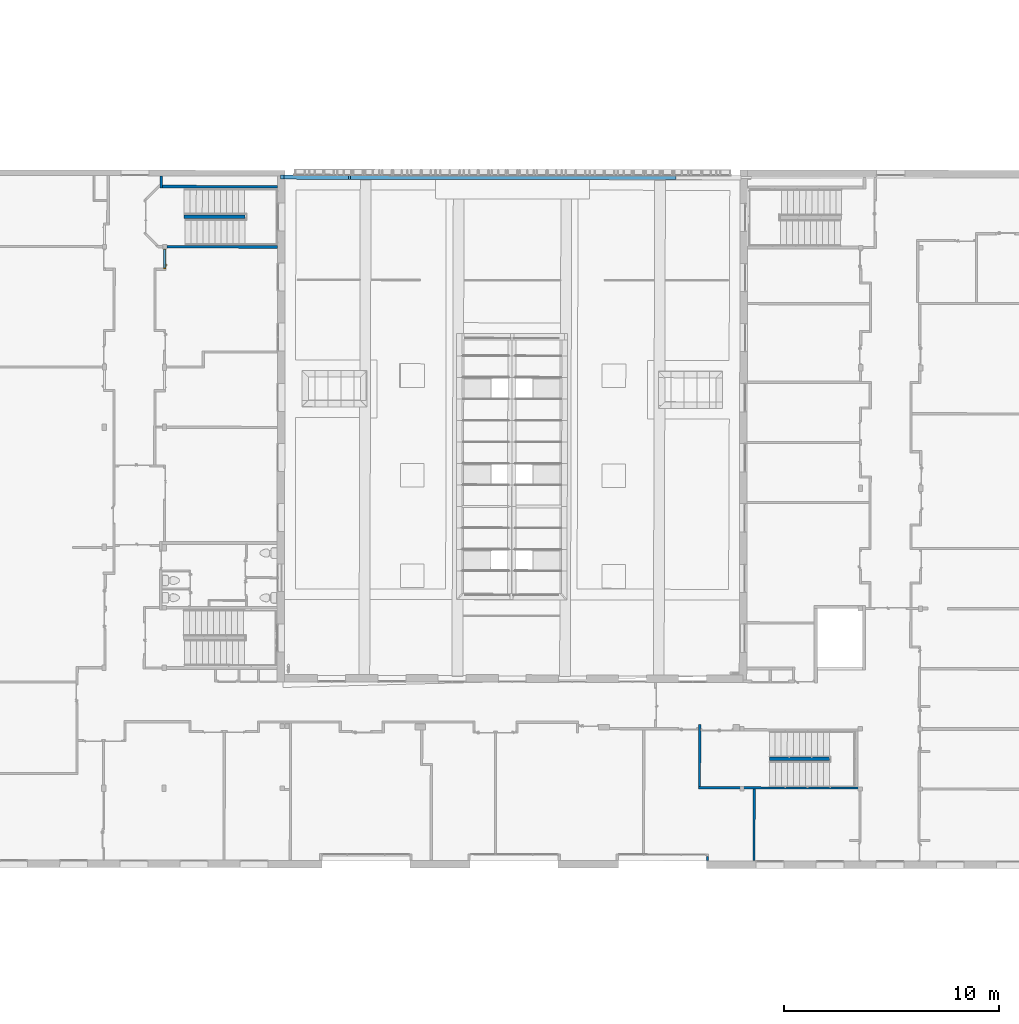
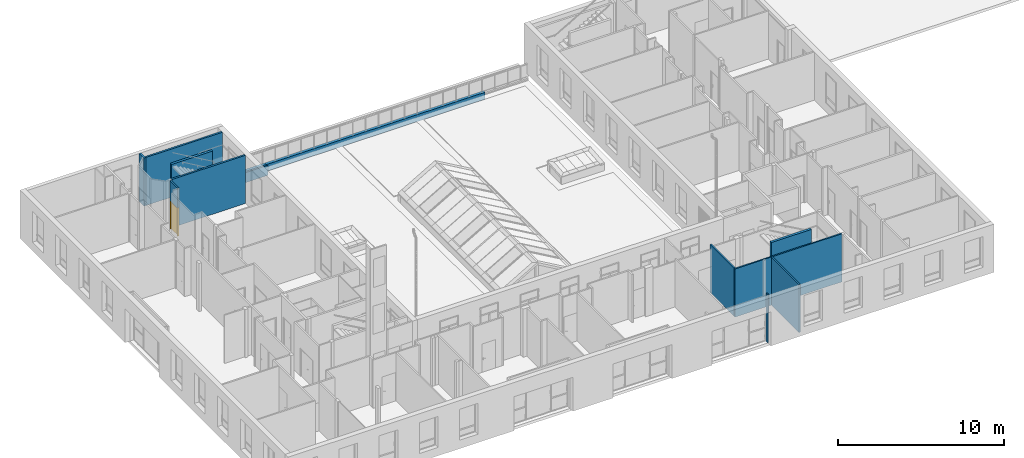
# One storey, part 69 of 101: 13 walls, 1 door, 2 openings.
"""IFC2X3 building model written with IfcOpenShell, lengths in metres."""

import ifcopenshell
import ifcopenshell.guid

model = None  # the IFC model being written
_history = None  # IfcOwnerHistory: only IFC2X3 demands one
_inside = {}  # id of a spatial element -> (the spatial element, [elements in it])
_under = {}  # id of a project, library or spatial element -> (it, [spatial elements below it])
_declared = {}  # id of a project -> (the project, [libraries it declares])
_typed = {}  # id of a type object -> (the type object, [elements of that type])
_made_of = {}  # id of a material, layer set ... -> (it, [elements and type objects made of it])


def new_model(schema):
    """Start an empty IFC model of exactly this schema.

    Asked for "IFC4X3", IfcOpenShell would pick the latest addendum, in which some entities
    have other attributes; the version numbers below select the first issue.
    IFC2X3 requires an IfcOwnerHistory on every rooted entity: one is made here for all.
    """
    global model, _history
    if schema == "IFC4X3":
        model = ifcopenshell.file(schema_version=(4, 3, 0, 0))
    else:
        model = ifcopenshell.file(schema=schema)
    _inside.clear()
    _under.clear()
    _declared.clear()
    _typed.clear()
    _made_of.clear()
    _history = None
    if model.schema == "IFC2X3":
        org = make("IfcOrganization", Name="unknown")
        user = make(
            "IfcPersonAndOrganization",
            ThePerson=make("IfcPerson", FamilyName="unknown"),
            TheOrganization=org,
        )
        app = make(
            "IfcApplication",
            ApplicationDeveloper=org,
            Version="unknown",
            ApplicationFullName="unknown",
            ApplicationIdentifier="unknown",
        )
        _history = make(
            "IfcOwnerHistory",
            OwningUser=user,
            OwningApplication=app,
            ChangeAction="ADDED",
            CreationDate=0,
        )
    return model


def make(cls, **values):
    """One entity of the class cls with the attributes given. An attribute that is None is left unset."""
    return model.create_entity(
        cls, **{name: value for name, value in values.items() if value is not None}
    )


def entity(cls, *values):
    """Any entity or typed value of the class cls, its attributes in the order of the schema. None: left unset."""
    e = model.create_entity(cls)
    for i, value in enumerate(values):
        if value is not None:
            e[i] = value
    return e


def rooted(cls, **values):
    """An entity with a GlobalId (a new one), such as an element, a storey or a relation."""
    return make(cls, GlobalId=ifcopenshell.guid.new(), OwnerHistory=_history, **values)


def si_unit(unit_type, name, prefix=None):
    """IfcSIUnit, for example si_unit("LENGTHUNIT", "METRE", prefix="MILLI")."""
    return make("IfcSIUnit", UnitType=unit_type, Prefix=prefix, Name=name)


def converted_unit(unit_type, name, factor, base, dimensions=None, offset=None):
    """IfcConversionBasedUnit, such as the inch: factor (a typed value) times the base unit."""
    return make(
        "IfcConversionBasedUnit"
        if offset is None
        else "IfcConversionBasedUnitWithOffset",
        ConversionOffset=offset,
        Dimensions=None
        if dimensions is None
        else entity("IfcDimensionalExponents", *dimensions),
        UnitType=unit_type,
        Name=name,
        ConversionFactor=make(
            "IfcMeasureWithUnit", ValueComponent=factor, UnitComponent=base
        ),
    )


def derived_unit(unit_type, elements):
    """IfcDerivedUnit: a product of units, each with its exponent."""
    return make(
        "IfcDerivedUnit",
        Elements=[
            make("IfcDerivedUnitElement", Unit=unit, Exponent=power)
            for unit, power in elements
        ],
        UnitType=unit_type,
    )


def assignment(units):
    """IfcUnitAssignment: the units of a project."""
    return None if units is None else make("IfcUnitAssignment", Units=units)


def point(xyz):
    """IfcCartesianPoint."""
    return None if xyz is None else make("IfcCartesianPoint", Coordinates=xyz)


def direction(xyz):
    """IfcDirection."""
    return None if xyz is None else make("IfcDirection", DirectionRatios=xyz)


def frame(location, z_axis=None, x_axis=None):
    """IfcAxis2Placement3D, a coordinate frame: its origin and axes. An axis left out is left unset."""
    return make(
        "IfcAxis2Placement3D",
        Location=point(location),
        Axis=direction(z_axis),
        RefDirection=direction(x_axis),
    )


def frame_2d(location, x_axis=None):
    """IfcAxis2Placement2D, a coordinate frame in the plane: its origin and x axis."""
    return make(
        "IfcAxis2Placement2D", Location=point(location), RefDirection=direction(x_axis)
    )


def origin():
    """The frame at (0, 0, 0) with its axes left unset."""
    return frame((0.0, 0.0, 0.0))


def place(relative_to, where):
    """IfcLocalPlacement: puts the frame where relative to a parent placement (None: the world)."""
    return make(
        "IfcLocalPlacement", PlacementRelTo=relative_to, RelativePlacement=where
    )


def context(
    kind, dimensions, precision=None, world=None, true_north=None, identifier=None
):
    """IfcGeometricRepresentationContext, for example the 3D "Model" context."""
    return make(
        "IfcGeometricRepresentationContext",
        ContextIdentifier=identifier,
        ContextType=kind,
        CoordinateSpaceDimension=dimensions,
        Precision=precision,
        WorldCoordinateSystem=world,
        TrueNorth=true_north,
    )


def subcontext(parent, identifier, kind, view, scale=None):
    """IfcGeometricRepresentationSubContext, for example "Body" below "Model"."""
    return make(
        "IfcGeometricRepresentationSubContext",
        ContextIdentifier=identifier,
        ContextType=kind,
        ParentContext=parent,
        TargetScale=scale,
        TargetView=view,
    )


def project(units=None, contexts=None):
    """IfcProject with its units and contexts."""
    return rooted(
        "IfcProject",
        Name="project",
        RepresentationContexts=contexts,
        UnitsInContext=assignment(units),
    )


def spatial(cls, under=None, at=None, **own):
    """A site, building, storey or space (cls), placed at a placement, below another one or the project."""
    s = rooted(cls, ObjectPlacement=at, **own)
    if under is not None:
        _under.setdefault(under.id(), (under, []))[1].append(s)
    return s


def polyline(points):
    """IfcPolyline through the points."""
    return make("IfcPolyline", Points=[point(p) for p in points])


def profile(cls, at=None, kind="AREA", **sizes):
    """A parametric profile (cls). Its sizes go by their IFC names, for example OverallWidth=200.0."""
    return make(cls, ProfileType=kind, Position=at, **sizes)


def rectangle(**sizes):
    """IfcRectangleProfileDef."""
    return profile("IfcRectangleProfileDef", **sizes)


def outline(outer, holes=None, kind="AREA"):
    """IfcArbitraryClosedProfileDef: a profile drawn as a closed curve; with holes, ...WithVoids."""
    if holes is None:
        return make("IfcArbitraryClosedProfileDef", ProfileType=kind, OuterCurve=outer)
    return make(
        "IfcArbitraryProfileDefWithVoids",
        ProfileType=kind,
        OuterCurve=outer,
        InnerCurves=holes,
    )


def extrude(swept, where, along, depth):
    """IfcExtrudedAreaSolid: the profile swept, set in the frame where, extruded along a direction by depth."""
    return make(
        "IfcExtrudedAreaSolid",
        SweptArea=swept,
        Position=where,
        ExtrudedDirection=direction(along),
        Depth=depth,
    )


def faces_of(points, faces, orient=None, outer=None):
    """IfcFace entities. A face is a list of loops; a loop is a list of indices into points, from 0.

    orient and outer hold one flag for each loop. By default every Orientation is true, the
    first loop of a face is its IfcFaceOuterBound and the others are IfcFaceBound.
    """
    made = []
    for i, loops in enumerate(faces):
        bounds = []
        for j, loop in enumerate(loops):
            is_outer = j == 0 if outer is None else outer[i][j]
            bounds.append(
                make(
                    "IfcFaceOuterBound" if is_outer else "IfcFaceBound",
                    Bound=make("IfcPolyLoop", Polygon=[points[k] for k in loop]),
                    Orientation=True if orient is None else orient[i][j],
                )
            )
        made.append(make("IfcFace", Bounds=bounds))
    return made


def faceted_brep(points, faces, orient=None, outer=None, voids=None):
    """IfcFacetedBrep: a solid bounded by flat faces; with voids (closed shells), ...WithVoids."""
    shared = [point(p) for p in points]
    hull = make("IfcClosedShell", CfsFaces=faces_of(shared, faces, orient, outer))
    if voids is None:
        return make("IfcFacetedBrep", Outer=hull)
    return make(
        "IfcFacetedBrepWithVoids",
        Outer=hull,
        Voids=[
            make(cls, CfsFaces=faces_of(shared, fs, o, b)) for cls, fs, o, b in voids
        ],
    )


def shape(context_of_items, identifier, shape_type, items):
    """IfcShapeRepresentation: the items that make up one representation, for example the "Body"."""
    return make(
        "IfcShapeRepresentation",
        ContextOfItems=context_of_items,
        RepresentationIdentifier=identifier,
        RepresentationType=shape_type,
        Items=items,
    )


def source(mapping_origin, context_of_items, identifier, shape_type, items):
    """IfcRepresentationMap: a shape defined once, which mapped items show again and again."""
    return make(
        "IfcRepresentationMap",
        MappingOrigin=mapping_origin,
        MappedRepresentation=shape(context_of_items, identifier, shape_type, items),
    )


def transform(
    local_origin,
    x_axis=None,
    y_axis=None,
    z_axis=None,
    scale=None,
    scale2=None,
    scale3=None,
    uniform=True,
):
    """IfcCartesianTransformationOperator3D, or its non-uniform kind. x_axis, y_axis, z_axis: its Axis1, 2, 3."""
    if uniform:
        return make(
            "IfcCartesianTransformationOperator3D",
            Axis1=direction(x_axis),
            Axis2=direction(y_axis),
            LocalOrigin=point(local_origin),
            Scale=scale,
            Axis3=direction(z_axis),
        )
    return make(
        "IfcCartesianTransformationOperator3DnonUniform",
        Axis1=direction(x_axis),
        Axis2=direction(y_axis),
        LocalOrigin=point(local_origin),
        Scale=scale,
        Axis3=direction(z_axis),
        Scale2=scale2,
        Scale3=scale3,
    )


def mapped(mapping_source, mapping_target):
    """IfcMappedItem: shows the shape of a source again, moved by a transform."""
    return make(
        "IfcMappedItem", MappingSource=mapping_source, MappingTarget=mapping_target
    )


def material(Name=None, Category=None):
    """IfcMaterial."""
    return make("IfcMaterial", Name=Name, Category=Category)


def material_list(materials):
    """IfcMaterialList."""
    return make("IfcMaterialList", Materials=materials)


def layer(
    of_material, thickness, ventilated=None, Name=None, Category=None, Priority=None
):
    """IfcMaterialLayer: one layer of a wall or slab, of a material (None: an air gap)."""
    return make(
        "IfcMaterialLayer",
        Material=of_material,
        LayerThickness=thickness,
        IsVentilated=ventilated,
        Name=Name,
        Category=Category,
        Priority=Priority,
    )


def layer_set(layers, Name=None):
    """IfcMaterialLayerSet."""
    return make("IfcMaterialLayerSet", MaterialLayers=layers, LayerSetName=Name)


def layer_usage(for_layer_set, set_direction, sense, offset, extent=None):
    """IfcMaterialLayerSetUsage: how a layer set lies in its element."""
    return make(
        "IfcMaterialLayerSetUsage",
        ForLayerSet=for_layer_set,
        LayerSetDirection=set_direction,
        DirectionSense=sense,
        OffsetFromReferenceLine=offset,
        ReferenceExtent=extent,
    )


def made_of(thing, what):
    """Note that an element or type object is made of a material, layer set ...; save() writes the relation."""
    if what is not None:
        _made_of.setdefault(what.id(), (what, []))[1].append(thing)
    return thing


def type_object(cls, material=None, **own):
    """A type object (cls), such as IfcWallType, which elements share."""
    return made_of(rooted(cls, **own), material)


def type_shapes(of_type, sources):
    """Give a type object the sources (RepresentationMaps) that its elements show as mapped items."""
    of_type.RepresentationMaps = sources


def element(
    cls,
    number,
    at=None,
    inside=None,
    cuts=None,
    type_object=None,
    material=None,
    context=None,
    identifier="Body",
    shape_type=None,
    held_by="IfcProductDefinitionShape",
    body=None,
    shapes=None,
    **own,
):
    """One element of the class cls, such as IfcWall. Its Tag is "e" and its number.

    at: its placement. inside: the storey or other place that contains it. cuts: it is an
    opening in that element (IfcRelVoidsElement). A single representation is given by context,
    identifier, shape_type and body (its items); several are given by shapes. held_by: the class
    of the entity that holds the representations. save() writes the other relations.
    """
    e = rooted(cls, Tag="e%d" % number, ObjectPlacement=at, **own)
    if body is not None:
        shapes = [shape(context, identifier, shape_type, body)]
    if shapes is not None:
        e.Representation = make(held_by, Representations=shapes)
    if inside is not None:
        _inside.setdefault(inside.id(), (inside, []))[1].append(e)
    if cuts is not None:
        rooted(
            "IfcRelVoidsElement", RelatingBuildingElement=cuts, RelatedOpeningElement=e
        )
    if type_object is not None:
        _typed.setdefault(type_object.id(), (type_object, []))[1].append(e)
    return made_of(e, material)


def fill(opening, filler):
    """IfcRelFillsElement: the door or window that sits in an opening."""
    return rooted(
        "IfcRelFillsElement",
        RelatingOpeningElement=opening,
        RelatedBuildingElement=filler,
    )


def aggregate(whole, parts):
    """IfcRelAggregates: a whole, such as a stair, and the parts it consists of."""
    return rooted("IfcRelAggregates", RelatingObject=whole, RelatedObjects=parts)


def save(model, path):
    """Write the relations noted so far, then the file.

    IfcRelAggregates (storeys below a building ...), IfcRelContainedInSpatialStructure (elements
    in a storey), IfcRelDefinesByType, IfcRelAssociatesMaterial and IfcRelDeclares: one each for
    every whole, place, type object, material and project.
    """
    for whole, parts in _under.values():
        aggregate(whole, parts)
    for where, things in _inside.values():
        rooted(
            "IfcRelContainedInSpatialStructure",
            RelatedElements=things,
            RelatingStructure=where,
        )
    for kind, things in _typed.values():
        rooted("IfcRelDefinesByType", RelatedObjects=things, RelatingType=kind)
    for what, things in _made_of.values():
        rooted("IfcRelAssociatesMaterial", RelatedObjects=things, RelatingMaterial=what)
    for by, libraries in _declared.values():
        rooted("IfcRelDeclares", RelatingContext=by, RelatedDefinitions=libraries)
    model.write(path)


model = new_model("IFC2X3")

# Units and contexts
model_context = context("Model", 3, precision=1e-05, world=origin(), true_north=direction((6.123233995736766e-17, 1.0)))
body_context = subcontext(model_context, "Body", "Model", "MODEL_VIEW")
ifc_project = project(units=[si_unit("LENGTHUNIT", "METRE"), si_unit("AREAUNIT", "SQUARE_METRE"), converted_unit("PLANEANGLEUNIT", "DEGREE", entity("IfcPlaneAngleMeasure", 0.017453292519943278), si_unit("PLANEANGLEUNIT", "RADIAN"), dimensions=[0, 0, 0, 0, 0, 0, 0]), derived_unit("THERMALTRANSMITTANCEUNIT", [(si_unit("MASSUNIT", "GRAM", prefix="KILO"), 1), (si_unit("THERMODYNAMICTEMPERATUREUNIT", "KELVIN"), -1), (si_unit("TIMEUNIT", "SECOND"), -3)])], contexts=[model_context])

# Site, building, storey
site_placement = place(None, frame((1253.6752467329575, 2072.143113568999, 91.49999999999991), z_axis=(0.0, 0.0, 1.0), x_axis=(0.7237211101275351, 0.6900925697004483, 0.0)))
site = spatial("IfcSite", under=ifc_project, at=site_placement, Name="Surface", CompositionType="ELEMENT")
building_placement = place(site_placement, origin())
building = spatial("IfcBuilding", under=site, at=building_placement, CompositionType="ELEMENT")
storey_placement = place(building_placement, origin())
storey = spatial("IfcBuildingStorey", under=building, at=storey_placement, Name="0- Rdc", CompositionType="ELEMENT", Elevation=-5.764692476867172e-13)

# Walls
ifc_material_1 = material(Name="OMD_Béton blanc")
ifc_layer_1 = layer(ifc_material_1, 0.12999999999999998)
ifc_layer_set_1 = layer_set([ifc_layer_1], Name="Mur de base:MUR 13")
ifc_layer_usage_1 = layer_usage(ifc_layer_set_1, "AXIS2", "NEGATIVE", 0.06499999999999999)
wall_type_1 = type_object("IfcWallType", Name="Mur de base:MUR 13", PredefinedType="STANDARD", material=ifc_layer_set_1)
wall_1_placement = place(storey_placement, frame((173.56682991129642, 15.732409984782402, 0.0), z_axis=(0.0, 0.0, 1.0), x_axis=(-0.7228702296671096, 0.6909838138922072, 0.0)))
element("IfcWallStandardCase", 1, at=wall_1_placement, inside=storey, type_object=wall_type_1, material=ifc_layer_usage_1, Name="Mur de base:MUR 13", ObjectType="Mur de base:MUR 13", context=body_context, shape_type="SweptSolid", body=[
    extrude(rectangle(XDim=5.140000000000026, YDim=0.12999999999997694, at=frame_2d((2.570000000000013, -2.983724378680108e-16), x_axis=(-1.0, 0.0))), origin(), (0.0, 0.0, 1.0), 3.5499999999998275),
])
ifc_layer_usage_2 = layer_usage(ifc_layer_set_1, "AXIS2", "NEGATIVE", 0.06499999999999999)
wall_2_placement = place(storey_placement, frame((171.54955705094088, 21.444227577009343, 0.0), z_axis=(0.0, 0.0, 1.0), x_axis=(0.6909838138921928, 0.7228702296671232, 0.0)))
element("IfcWallStandardCase", 2, at=wall_2_placement, inside=storey, type_object=wall_type_1, material=ifc_layer_usage_2, Name="Mur de base:MUR 13", ObjectType="Mur de base:MUR 13", context=body_context, shape_type="SweptSolid", body=[
    extrude(rectangle(XDim=0.5681400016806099, YDim=0.1299999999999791, at=frame_2d((0.2840700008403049, -3.039235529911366e-15), x_axis=(-1.0, 0.0))), origin(), (0.0, 0.0, 1.0), 3.549999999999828),
])
ifc_layer_usage_3 = layer_usage(ifc_layer_set_1, "AXIS2", "NEGATIVE", 0.06499999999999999)
wall_3_placement = place(storey_placement, frame((175.5015845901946, 17.756446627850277, 0.0), z_axis=(0.0, 0.0, 1.0), x_axis=(-0.7228702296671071, 0.6909838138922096, 0.0)))
element("IfcWallStandardCase", 3, at=wall_3_placement, inside=storey, type_object=wall_type_1, material=ifc_layer_usage_3, Name="Mur de base:MUR 13", ObjectType="Mur de base:MUR 13", context=body_context, shape_type="SweptSolid", body=[
    extrude(rectangle(XDim=5.340000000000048, YDim=0.1299999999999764, at=frame_2d((2.670000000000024, 7.840950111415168e-16), x_axis=(-1.0, 0.0))), origin(), (0.0, 0.0, 1.0), 3.5499999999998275),
])
ifc_layer_2 = layer(ifc_material_1, 0.1)
ifc_layer_set_2 = layer_set([ifc_layer_2], Name="Mur de base:MUR 10")
ifc_layer_usage_4 = layer_usage(ifc_layer_set_2, "AXIS2", "NEGATIVE", 0.05)
wall_type_2 = type_object("IfcWallType", Name="Mur de base:MUR 10", PredefinedType="STANDARD", material=ifc_layer_set_2)
wall_4_placement = place(storey_placement, frame((175.78559891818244, -21.18034748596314, 0.0), z_axis=(0.0, 0.0, 1.0), x_axis=(-0.7228702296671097, 0.690983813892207, 0.0)))
element("IfcWallStandardCase", 4, at=wall_4_placement, inside=storey, type_object=wall_type_2, material=ifc_layer_usage_4, Name="Mur de base:MUR 10", ObjectType="Mur de base:MUR 10", context=body_context, shape_type="SweptSolid", body=[
    extrude(rectangle(XDim=7.470000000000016, YDim=0.10000000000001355, at=frame_2d((3.735000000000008, -3.3133218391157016e-15), x_axis=(-1.0, 0.0))), origin(), (0.0, 0.0, 1.0), 3.5499999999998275),
])

# Wall, opening
ifc_layer_usage_5 = layer_usage(ifc_layer_set_2, "AXIS2", "NEGATIVE", 0.05)
wall_5_placement = place(storey_placement, frame((170.4564510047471, -16.01710407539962, 0.0), z_axis=(0.0, 0.0, 1.0), x_axis=(0.6909838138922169, 0.7228702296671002, 0.0)))
wall_5 = element("IfcWallStandardCase", 5, at=wall_5_placement, inside=storey, type_object=wall_type_2, material=ifc_layer_usage_5, Name="Mur de base:MUR 10", ObjectType="Mur de base:MUR 10", context=body_context, shape_type="SweptSolid", body=[
    extrude(rectangle(XDim=2.90000000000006, YDim=0.10000000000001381, at=frame_2d((1.45000000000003, 2.2343238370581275e-15), x_axis=(-1.0, 0.0))), origin(), (0.0, 0.0, 1.0), 3.5499999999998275),
])
opening_1_placement = place(wall_5_placement, frame((-106.204360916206, 134.28545354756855, 0.0)))
element("IfcOpeningElement", 6, at=opening_1_placement, cuts=wall_5, Name="Mur de base:MUR 10", ObjectType="Opening", context=body_context, shape_type="SweptSolid", body=[
    extrude(rectangle(XDim=2.085, YDim=0.10000000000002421, at=frame_2d((-1.0172418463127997e-14, -1.1102230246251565e-16), x_axis=(0.0, 1.0))), frame((108.85436091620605, -135.83795354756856, 1.0425), z_axis=(0.0, 1.0, 0.0), x_axis=(1.0, 0.0, 0.0)), (0.0, 0.0, 1.0), 1.5049999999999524),
])

# Wall
ifc_layer_usage_6 = layer_usage(ifc_layer_set_2, "AXIS2", "NEGATIVE", 0.05)
wall_6_placement = place(storey_placement, frame((172.2234430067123, -17.844489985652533, 0.0), z_axis=(0.0, 0.0, 1.0), x_axis=(-0.6909838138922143, -0.7228702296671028, 0.0)))
element("IfcWallStandardCase", 7, at=wall_6_placement, inside=storey, type_object=wall_type_2, material=ifc_layer_usage_6, Name="Mur de base:MUR 10", ObjectType="Mur de base:MUR 10", context=body_context, shape_type="SweptSolid", body=[
    extrude(rectangle(XDim=3.3399999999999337, YDim=0.10000000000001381, at=frame_2d((1.6699999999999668, 3.1814828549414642e-15), x_axis=(-1.0, 0.0))), origin(), (0.0, 0.0, 1.0), 3.5499999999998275),
])

# Wall, opening, door
ifc_layer_usage_7 = layer_usage(ifc_layer_set_2, "AXIS2", "NEGATIVE", 0.05)
wall_7_placement = place(storey_placement, frame((169.70989152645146, 19.28087814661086, 2.0850000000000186), z_axis=(0.0, 0.0, 1.0), x_axis=(-0.6909838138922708, -0.7228702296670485, 0.0)))
wall_7 = element("IfcWallStandardCase", 8, at=wall_7_placement, inside=storey, type_object=wall_type_2, material=ifc_layer_usage_7, Name="Mur de base:MUR 10", ObjectType="Mur de base:MUR 10", context=body_context, shape_type="SweptSolid", body=[
    extrude(rectangle(XDim=0.8999999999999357, YDim=0.10000000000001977, at=frame_2d((0.44999999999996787, 1.4536982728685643e-15), x_axis=(-1.0, 0.0))), origin(), (0.0, 0.0, 1.0), 1.464999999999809),
])
opening_2_placement = place(wall_7_placement, frame((-0.007499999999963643, -0.04999999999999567, -2.0850000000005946)))
opening_2 = element("IfcOpeningElement", 9, at=opening_2_placement, cuts=wall_7, Name="OMD_Porte 1V tunnel:80x204:1", ObjectType="Opening", context=body_context, shape_type="SweptSolid", body=[
    extrude(rectangle(XDim=2.0850000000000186, YDim=0.9349999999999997, at=frame_2d((1.0425000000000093, 0.46749999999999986), x_axis=(1.0, 0.0))), frame((0.0, 0.0, 0.0), z_axis=(0.0, 1.0, 0.0), x_axis=(0.0, 0.0, 1.0)), (0.0, 0.0, 1.0), 0.1),
])
ifc_material_2 = material(Name="Porte - Poignée")
ifc_material_3 = material(Name="OMD_Peinture mur")
ifc_material_4 = material(Name="OMD_Bois")
ifc_material_list = material_list([ifc_material_2, ifc_material_3, ifc_material_4])
door_style = type_object("IfcDoorStyle", Name="OMD_Porte 1V tunnel:80x204", ConstructionType="NOTDEFINED", OperationType="NOTDEFINED", ParameterTakesPrecedence=False, Sizeable=False, material=ifc_material_list)
shared_shape = source(origin(), body_context, "Body", "Brep", [
    faceted_brep([(0.21297470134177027, 0.03500000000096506, 1.0077804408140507), (0.20900000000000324, 0.03500000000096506, 1.0069999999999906), (0.208999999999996, 0.03500000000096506, 0.9929999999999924), (0.21297470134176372, 0.03500000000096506, 0.9922195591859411), (0.21702529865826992, 0.03500000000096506, 0.9922195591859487), (0.22100000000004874, 0.03500000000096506, 0.9930000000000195), (0.22100000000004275, 0.03500000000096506, 1.0069999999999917), (0.2170252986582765, 0.03500000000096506, 1.007780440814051), (0.22100000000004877, 0.05748520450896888, 0.9930000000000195), (0.22100000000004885, 0.057485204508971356, 1.0069999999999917), (0.21702529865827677, 0.059131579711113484, 1.007780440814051), (0.23083890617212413, 0.07294518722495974, 1.007780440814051), (0.2291610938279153, 0.07699578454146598, 1.0077804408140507), (0.21297470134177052, 0.060809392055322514, 1.0077804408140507), (0.3206847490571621, 0.0664673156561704, 1.0077804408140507), (0.32354895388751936, 0.06933152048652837, 1.0077804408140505), (0.31588468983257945, 0.07699578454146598, 1.0077804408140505), (0.31420687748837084, 0.07294518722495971, 1.0077804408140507), (0.20900000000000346, 0.06245576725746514, 1.0069999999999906), (0.20900000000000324, 0.06245576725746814, 0.9929999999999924), (0.21297470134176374, 0.06080939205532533, 0.9922195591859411), (0.22916109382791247, 0.07699578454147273, 0.9922195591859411), (0.23083890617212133, 0.07294518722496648, 0.9922195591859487), (0.21702529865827, 0.05913157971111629, 0.9922195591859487), (0.32354895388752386, 0.06933152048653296, 0.9922195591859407), (0.3206847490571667, 0.06646731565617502, 0.9922195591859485), (0.3142068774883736, 0.07294518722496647, 0.9922195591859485), (0.3158846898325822, 0.07699578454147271, 0.9922195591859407), (0.23248528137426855, 0.0689704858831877, 0.9930000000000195), (0.23248528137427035, 0.06897048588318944, 1.0069999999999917), (0.22751471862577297, 0.0809704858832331, 1.0069999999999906), (0.22751471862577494, 0.08097048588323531, 0.9929999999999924), (0.2725228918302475, 0.06897048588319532, 0.9930000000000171), (0.3125605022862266, 0.06897048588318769, 0.9930000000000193), (0.31256050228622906, 0.06897048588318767, 1.0069999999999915), (0.2725228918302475, 0.0689704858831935, 1.0069999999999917), (0.2725228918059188, 0.07512492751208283, 1.0078781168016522), (0.31753106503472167, 0.08097048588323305, 1.0069999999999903), (0.2776005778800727, 0.08097048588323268, 1.0069999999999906), (0.31753106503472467, 0.08097048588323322, 0.9929999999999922), (0.2674452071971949, 0.08097048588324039, 0.9929999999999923), (0.2725228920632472, 0.07512492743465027, 0.9921218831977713), (0.317874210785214, 0.06365677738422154, 0.9930000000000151), (0.32635949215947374, 0.07214205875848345, 0.99299999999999), (0.3263594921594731, 0.07214205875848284, 1.0069999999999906), (0.317874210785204, 0.06365677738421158, 1.0069999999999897)], [[[0, 1, 2, 3, 4, 5, 6, 7]], [[6, 5, 8, 9]], [[9, 10, 7, 6]], [[10, 11, 12, 13, 0, 7]], [[14, 15, 16, 17]], [[13, 18, 1, 0]], [[2, 1, 18, 19]], [[19, 20, 3, 2]], [[20, 21, 22, 23, 4, 3]], [[24, 25, 26, 27]], [[23, 8, 5, 4]], [[9, 8, 28, 29]], [[29, 11, 10, 9]], [[12, 30, 18, 13]], [[19, 18, 30, 31]], [[31, 21, 20, 19]], [[22, 28, 8, 23]], [[29, 28, 32, 33, 34, 35]], [[11, 35, 36]], [[16, 37, 38]], [[30, 12, 38]], [[38, 12, 36]], [[36, 35, 17]], [[17, 16, 36]], [[35, 11, 29]], [[34, 17, 35]], [[11, 36, 12]], [[38, 36, 16]], [[31, 30, 38, 37, 39, 40]], [[40, 41, 21]], [[41, 40, 27]], [[21, 31, 40]], [[39, 27, 40]], [[41, 32, 22]], [[22, 21, 41]], [[26, 32, 41]], [[28, 22, 32]], [[32, 26, 33]], [[26, 41, 27]], [[42, 25, 24, 43, 44, 15, 14, 45]], [[34, 33, 42, 45]], [[45, 14, 17, 34]], [[15, 44, 37, 16]], [[39, 37, 44, 43]], [[43, 24, 27, 39]], [[25, 42, 33, 26]]]),
    faceted_brep([(0.21297470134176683, -0.004999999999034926, 1.0077804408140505), (0.2170252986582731, -0.004999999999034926, 1.007780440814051), (0.2210000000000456, -0.004999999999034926, 1.006999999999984), (0.22100000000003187, -0.004999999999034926, 0.9930000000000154), (0.21702529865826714, -0.004999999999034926, 0.9922195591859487), (0.21297470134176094, -0.004999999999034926, 0.992219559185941), (0.20900000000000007, -0.004999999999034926, 0.992999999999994), (0.20900000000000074, -0.004999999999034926, 1.0069999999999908), (0.20900000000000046, -0.03265095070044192, 1.0069999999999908), (0.21297470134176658, -0.03100457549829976, 1.0077804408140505), (0.22902358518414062, -0.04705345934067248, 1.0077804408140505), (0.2307013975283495, -0.04300286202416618, 1.007780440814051), (0.21702529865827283, -0.02932676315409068, 1.007780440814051), (0.3235218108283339, -0.039389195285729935, 1.0077804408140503), (0.3206576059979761, -0.03652499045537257, 1.0077804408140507), (0.3141797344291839, -0.04300286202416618, 1.0077804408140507), (0.31585754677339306, -0.04705345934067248, 1.0077804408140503), (0.22100000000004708, -0.027680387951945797, 1.0069999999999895), (0.22100000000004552, -0.02768038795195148, 0.9930000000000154), (0.21702529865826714, -0.029326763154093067, 0.9922195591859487), (0.23070139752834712, -0.04300286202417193, 0.9922195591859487), (0.2290235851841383, -0.0470534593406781, 0.992219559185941), (0.21297470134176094, -0.031004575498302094, 0.992219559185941), (0.32065760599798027, -0.036524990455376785, 0.9922195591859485), (0.3235218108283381, -0.03938919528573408, 0.9922195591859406), (0.31585754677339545, -0.047053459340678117, 0.9922195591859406), (0.3141797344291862, -0.04300286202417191, 0.9922195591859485), (0.20899999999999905, -0.032650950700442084, 0.9929999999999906), (0.22737720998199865, -0.051028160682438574, 1.0069999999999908), (0.23234777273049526, -0.03902816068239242, 1.0069999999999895), (0.23234777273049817, -0.03902816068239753, 0.9930000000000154), (0.22737720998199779, -0.051028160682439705, 0.9929999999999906), (0.2673076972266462, -0.05102816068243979, 1.0069999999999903), (0.272440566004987, -0.0451828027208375, 1.0078781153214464), (0.3175039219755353, -0.05102816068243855, 1.0069999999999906), (0.27244056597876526, -0.039028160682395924, 1.0069999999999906), (0.3125333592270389, -0.03902816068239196, 1.0069999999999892), (0.31253335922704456, -0.03902816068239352, 0.9930000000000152), (0.27244056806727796, -0.03902816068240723, 0.9930000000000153), (0.27244056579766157, -0.04518280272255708, 0.9921218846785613), (0.3175039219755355, -0.051028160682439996, 0.9929999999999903), (0.27757344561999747, -0.051028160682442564, 0.9929999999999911), (0.3178470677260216, -0.03371445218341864, 1.0069999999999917), (0.3263323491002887, -0.04219973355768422, 1.0069999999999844), (0.3263323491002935, -0.04219973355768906, 0.9929999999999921), (0.31784706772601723, -0.033714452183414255, 0.9930000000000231)], [[[0, 1, 2, 3, 4, 5, 6, 7]], [[8, 9, 0, 7]], [[9, 10, 11, 12, 1, 0]], [[13, 14, 15, 16]], [[12, 17, 2, 1]], [[3, 2, 17, 18]], [[18, 19, 4, 3]], [[19, 20, 21, 22, 5, 4]], [[23, 24, 25, 26]], [[22, 27, 6, 5]], [[7, 6, 27, 8]], [[28, 10, 9, 8]], [[11, 29, 17, 12]], [[18, 17, 29, 30]], [[30, 20, 19, 18]], [[21, 31, 27, 22]], [[8, 27, 31, 28]], [[32, 33, 10]], [[33, 32, 16]], [[10, 28, 32]], [[34, 16, 32]], [[33, 35, 11]], [[11, 10, 33]], [[15, 35, 33]], [[29, 11, 35]], [[35, 15, 36]], [[15, 33, 16]], [[30, 29, 35, 36, 37, 38]], [[20, 38, 39]], [[25, 40, 41]], [[31, 21, 41]], [[41, 21, 39]], [[39, 38, 26]], [[26, 25, 39]], [[38, 20, 30]], [[37, 26, 38]], [[20, 39, 21]], [[41, 39, 25]], [[28, 31, 41, 40, 34, 32]], [[42, 14, 13, 43, 44, 24, 23, 45]], [[43, 13, 16, 34]], [[14, 42, 36, 15]], [[37, 36, 42, 45]], [[45, 23, 26, 37]], [[24, 44, 40, 25]], [[34, 40, 44, 43]]]),
    faceted_brep([(0.22535276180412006, 0.030000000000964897, 0.8660039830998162), (0.2350000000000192, 0.030000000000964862, 0.8700000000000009), (0.2350000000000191, 0.030000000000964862, 1.0800000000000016), (0.2253527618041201, 0.030000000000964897, 1.0839960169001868), (0.21500000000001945, 0.030000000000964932, 1.0853589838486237), (0.20464723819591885, 0.03000000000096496, 1.0839960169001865), (0.19500000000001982, 0.030000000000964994, 1.0800000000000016), (0.19500000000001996, 0.030000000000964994, 0.8700000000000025), (0.20464723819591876, 0.03000000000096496, 0.866003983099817), (0.21500000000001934, 0.030000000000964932, 0.8646410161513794), (0.22535276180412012, 0.0350000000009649, 1.0839960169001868), (0.2350000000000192, 0.03500000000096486, 1.0800000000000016), (0.23500000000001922, 0.03500000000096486, 0.8700000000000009), (0.22535276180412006, 0.0350000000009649, 0.8660039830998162), (0.21500000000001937, 0.03500000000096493, 0.8646410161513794), (0.20464723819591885, 0.03500000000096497, 0.866003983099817), (0.19500000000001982, 0.035000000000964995, 0.8700000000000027), (0.19500000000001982, 0.035000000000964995, 1.0800000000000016), (0.20464723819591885, 0.03500000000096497, 1.0839960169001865), (0.21500000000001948, 0.03500000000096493, 1.0853589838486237)], [[[0, 1, 2, 3, 4, 5, 6, 7, 8, 9]], [[10, 11, 12, 13, 14, 15, 16, 17, 18, 19]], [[11, 10, 3, 2]], [[3, 10, 19, 4]], [[19, 18, 5, 4]], [[18, 17, 6, 5]], [[7, 6, 17, 16]], [[16, 15, 8, 7]], [[8, 15, 14, 9]], [[14, 13, 0, 9]], [[13, 12, 1, 0]], [[2, 1, 12, 11]]]),
    faceted_brep([(0.22535276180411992, -0.004999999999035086, 0.8660039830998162), (0.2350000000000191, -0.004999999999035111, 0.8700000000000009), (0.23500000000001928, -0.004999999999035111, 1.0800000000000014), (0.22535276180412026, -0.004999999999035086, 1.0839960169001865), (0.2150000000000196, -0.004999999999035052, 1.0853589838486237), (0.20464723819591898, -0.0049999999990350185, 1.0839960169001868), (0.19500000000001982, -0.004999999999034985, 1.0800000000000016), (0.19500000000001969, -0.004999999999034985, 0.8700000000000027), (0.20464723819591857, -0.0049999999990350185, 0.8660039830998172), (0.21500000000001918, -0.004999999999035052, 0.8646410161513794), (0.22535276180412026, 0.0, 1.0839960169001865), (0.2350000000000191, 0.0, 1.0800000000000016), (0.2350000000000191, 0.0, 0.8700000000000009), (0.22535276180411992, 0.0, 0.8660039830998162), (0.21500000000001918, 0.0, 0.8646410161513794), (0.20464723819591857, 0.0, 0.8660039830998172), (0.19500000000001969, 0.0, 0.8700000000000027), (0.19500000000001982, 0.0, 1.0800000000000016), (0.20464723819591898, 0.0, 1.0839960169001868), (0.2150000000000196, 0.0, 1.0853589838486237)], [[[0, 1, 2, 3, 4, 5, 6, 7, 8, 9]], [[10, 11, 12, 13, 14, 15, 16, 17, 18, 19]], [[16, 15, 8, 7]], [[8, 15, 14, 9]], [[14, 13, 0, 9]], [[13, 12, 1, 0]], [[2, 1, 12, 11]], [[11, 10, 3, 2]], [[3, 10, 19, 4]], [[19, 18, 5, 4]], [[18, 17, 6, 5]], [[7, 6, 17, 16]]]),
    faceted_brep([(0.14500000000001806, 0.030000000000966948, 0.0), (0.9900000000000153, 0.030000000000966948, 0.0), (0.9900000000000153, 0.0, 0.0), (0.14500000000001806, 0.0, 0.0), (0.14500000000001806, 0.030000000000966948, 2.04), (0.14500000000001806, 0.0, 2.04), (0.9900000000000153, 0.0, 2.04), (0.9900000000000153, 0.030000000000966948, 2.04)], [[[0, 1, 2, 3]], [[4, 0, 3, 5]], [[5, 3, 2, 6]], [[6, 2, 1, 7]], [[7, 1, 0, 4]], [[4, 5, 6, 7]]]),
    faceted_brep([(0.10000000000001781, 0.0, 0.0), (0.10000000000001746, 0.10000000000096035, 0.0), (0.16000000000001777, 0.10000000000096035, 0.0), (0.16000000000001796, 0.03000000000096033, 0.0), (0.145000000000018, 0.03000000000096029, 0.0), (0.14500000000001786, 0.0, 0.0), (0.145000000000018, 0.0, 2.04), (0.9900000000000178, 0.0, 2.0400000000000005), (0.9900000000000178, 0.0, 0.0), (1.0350000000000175, 0.0, 0.0), (1.0350000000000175, 0.0, 2.085), (0.10000000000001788, 0.0, 2.085), (0.14500000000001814, 0.030000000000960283, 2.04), (0.16000000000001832, 0.03000000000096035, 2.0249999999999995), (0.9750000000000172, 0.03000000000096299, 2.0249999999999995), (0.9750000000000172, 0.03000000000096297, 0.0), (0.9900000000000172, 0.03000000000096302, 0.0), (0.9900000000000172, 0.03000000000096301, 2.0399999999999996), (0.16000000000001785, 0.10000000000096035, 2.0249999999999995), (0.1000000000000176, 0.10000000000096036, 2.085), (1.0350000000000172, 0.10000000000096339, 2.085), (1.0350000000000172, 0.10000000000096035, 0.0), (0.9750000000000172, 0.10000000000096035, 0.0), (0.9750000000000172, 0.10000000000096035, 2.025)], [[[0, 1, 2, 3, 4, 5]], [[5, 6, 7, 8, 9, 10, 11, 0]], [[4, 12, 6, 5]], [[3, 13, 14, 15, 16, 17, 12, 4]], [[2, 18, 13, 3]], [[1, 19, 20, 21, 22, 23, 18, 2]], [[0, 11, 19, 1]], [[10, 9, 21, 20]], [[9, 8, 16, 15, 22, 21]], [[17, 16, 8, 7]], [[23, 22, 15, 14]], [[12, 17, 7, 6]], [[18, 23, 14, 13]], [[11, 10, 20, 19]]]),
])
type_shapes(door_style, [shared_shape])
door_placement = place(opening_2_placement, frame((1.0350000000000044, 0.10000000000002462, 0.0), z_axis=(0.0, 0.0, 1.0), x_axis=(-1.0, 0.0, 0.0)))
door = element("IfcDoor", 10, at=door_placement, inside=storey, type_object=door_style, material=ifc_material_list, Name="OMD_Porte 1V tunnel:80x204", ObjectType="OMD_Porte 1V tunnel:80x204", OverallHeight=2.0850000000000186, OverallWidth=0.9349999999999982, context=body_context, shape_type="MappedRepresentation", body=[
    mapped(shared_shape, transform((0.0, 0.0, 0.0), scale=1.0)),
])
fill(opening_2, door)

# Walls
ifc_layer_usage_8 = layer_usage(ifc_layer_set_2, "AXIS2", "NEGATIVE", 0.05)
wall_8_placement = place(storey_placement, frame((168.48512543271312, -18.614867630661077, 0.0), z_axis=(0.0, 0.0, 1.0), x_axis=(-0.6909838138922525, -0.7228702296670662, 0.0)))
element("IfcWallStandardCase", 11, at=wall_8_placement, inside=storey, type_object=wall_type_2, material=ifc_layer_usage_8, Name="Mur de base:MUR 10", ObjectType="Mur de base:MUR 10", context=body_context, shape_type="SweptSolid", body=[
    extrude(rectangle(XDim=0.20000000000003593, YDim=0.1000000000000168, at=frame_2d((0.10000000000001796, 4.475586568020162e-16), x_axis=(-1.0, 0.0))), origin(), (0.0, 0.0, 1.0), 3.5499999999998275),
])
ifc_layer_3 = layer(ifc_material_1, 0.17)
ifc_layer_set_3 = layer_set([ifc_layer_3], Name="Mur de base:MUR 17")
ifc_layer_usage_9 = layer_usage(ifc_layer_set_3, "AXIS2", "NEGATIVE", 0.085)
wall_type_3 = type_object("IfcWallType", Name="Mur de base:MUR 17", PredefinedType="STANDARD", material=ifc_layer_set_3)
wall_9_placement = place(storey_placement, frame((175.72086614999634, -19.25091501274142, 0.0), z_axis=(0.0, 0.0, 1.0), x_axis=(-0.7228702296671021, 0.6909838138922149, 0.0)))
element("IfcWallStandardCase", 12, at=wall_9_placement, inside=storey, type_object=wall_type_3, material=ifc_layer_usage_9, Name="Mur de base:MUR 17", ObjectType="Mur de base:MUR 17", context=body_context, shape_type="SweptSolid", body=[
    extrude(rectangle(XDim=2.800000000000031, YDim=0.17000000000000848, at=frame_2d((1.4000000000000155, -1.519617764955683e-15), x_axis=(-1.0, 0.0))), origin(), (0.0, 0.0, 1.0), 3.5499999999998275),
])
ifc_layer_usage_10 = layer_usage(ifc_layer_set_3, "AXIS2", "NEGATIVE", 0.085)
wall_10_placement = place(storey_placement, frame((171.38972175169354, 19.750207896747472, 0.0), z_axis=(0.0, 0.0, 1.0), x_axis=(0.7228702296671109, -0.6909838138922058, 0.0)))
element("IfcWallStandardCase", 13, at=wall_10_placement, inside=storey, type_object=wall_type_3, material=ifc_layer_usage_10, Name="Mur de base:MUR 17", ObjectType="Mur de base:MUR 17", context=body_context, shape_type="SweptSolid", body=[
    extrude(rectangle(XDim=2.8500000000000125, YDim=0.17000000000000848, at=frame_2d((1.4250000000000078, -4.0592529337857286e-15), x_axis=(-1.0, 0.0))), origin(), (0.0, 0.0, 1.0), 3.5499999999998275),
])
ifc_material_5 = material(Name="Béton - Béton coulé sur place")
ifc_layer_4 = layer(ifc_material_5, 0.2)
ifc_layer_set_4 = layer_set([ifc_layer_4], Name="Mur de base:MUR 20")
ifc_layer_usage_11 = layer_usage(ifc_layer_set_4, "AXIS2", "NEGATIVE", 0.1)
wall_type_4 = type_object("IfcWallType", Name="Mur de base:MUR 20", PredefinedType="STANDARD", material=ifc_layer_set_4)
wall_11_placement = place(storey_placement, frame((175.92164086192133, 17.97744159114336, -1.0718824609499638), z_axis=(0.0, 0.0, 1.0), x_axis=(0.7228702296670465, -0.690983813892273, 0.0)))
element("IfcWallStandardCase", 14, at=wall_11_placement, inside=storey, type_object=wall_type_4, material=ifc_layer_usage_11, Name="Mur de base:MUR 20", ObjectType="Mur de base:MUR 20", context=body_context, shape_type="SweptSolid", body=[
    extrude(outline(polyline([(-0.1031707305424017, -1.6243658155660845), (0.09682965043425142, -1.6243658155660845), (0.10317034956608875, 1.6241706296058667), (-0.0968292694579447, 1.6245610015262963), (-0.1031707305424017, -1.6243658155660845)])), frame((1.6243689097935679, 0.0, 0.0), z_axis=(0.0, 0.0, 1.0), x_axis=(-0.001951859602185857, 0.9999980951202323, 0.0)), (0.0, 0.0, 1.0), 0.7369018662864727),
])
ifc_layer_usage_12 = layer_usage(ifc_layer_set_4, "AXIS2", "NEGATIVE", 0.1)
wall_12_placement = place(storey_placement, frame((178.19776955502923, 15.80171485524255, -0.7539702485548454), z_axis=(0.0, 0.0, 1.0), x_axis=(0.7228702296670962, -0.6909838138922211, 0.0)))
element("IfcWallStandardCase", 15, at=wall_12_placement, inside=storey, type_object=wall_type_4, material=ifc_layer_usage_12, Name="Mur de base:MUR 20", ObjectType="Mur de base:MUR 20", context=body_context, shape_type="SweptSolid", body=[
    extrude(rectangle(XDim=0.19999999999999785, YDim=15.253894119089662, at=frame_2d((-8.118505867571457e-16, -4.440892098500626e-16), x_axis=(1.0, 0.0))), frame((7.626947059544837, 0.0, 0.0), z_axis=(0.0, 0.0, 1.0), x_axis=(0.0, 1.0, 0.0)), (0.0, 0.0, 1.0), 0.5162360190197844),
])
ifc_layer_usage_13 = layer_usage(ifc_layer_set_4, "AXIS2", "NEGATIVE", 0.1)
wall_13_placement = place(storey_placement, frame((178.1977695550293, 15.801714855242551, -0.334980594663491), z_axis=(0.0, 0.0, 1.0), x_axis=(-0.7228702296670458, 0.6909838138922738, 0.0)))
element("IfcWallStandardCase", 16, at=wall_13_placement, inside=storey, type_object=wall_type_4, material=ifc_layer_usage_13, Name="Mur de base:MUR 20", ObjectType="Mur de base:MUR 20", context=body_context, shape_type="SweptSolid", body=[
    extrude(rectangle(XDim=2.9987397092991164, YDim=0.2000000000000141, at=frame_2d((1.4993698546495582, -3.2335245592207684e-15), x_axis=(-1.0, 0.0))), origin(), (0.0, 0.0, 1.0), 0.0972463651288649),
])

save(model, "model.ifc")
